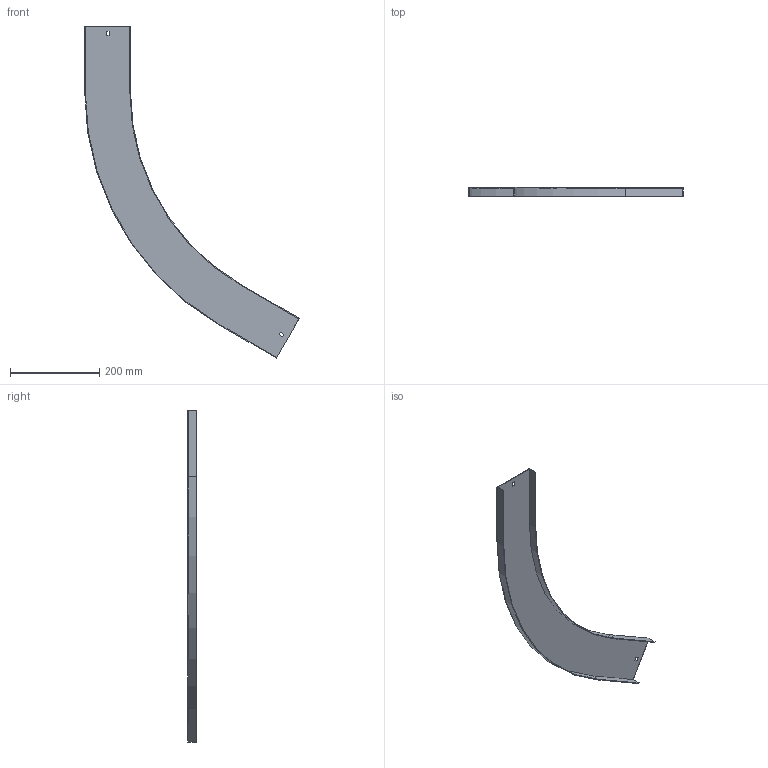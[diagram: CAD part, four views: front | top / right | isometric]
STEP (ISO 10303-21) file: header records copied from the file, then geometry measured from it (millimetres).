
FILE_DESCRIPTION (( 'STEP AP214' ), '1' );
FILE_NAME ('13N5R100.step', '2025-02-21T10:51:29', ( '' ), ( '' ), 'SwSTEP 2.0', 'SolidWorks 2023', '' );
FILE_SCHEMA (( 'AUTOMOTIVE_DESIGN' ));
Length unit declared in the file: millimetre
Products named in the file (1): 13N5R100
Bounding box: 482.15 x 20 x 745.91 mm (x, y, z)
Volume: 183775.8 mm3; surface area: 248175.3 mm2
Topology: 1 solids, 1 shells, 26 faces, 72 edges, 48 vertices
Faces by surface type: plane 22, cylinder 4
Entity records: 855 total; most frequent: CARTESIAN_POINT 147, ORIENTED_EDGE 144, DIRECTION 134, EDGE_CURVE 72, LINE 64, VECTOR 64, VERTEX_POINT 48, AXIS2_PLACEMENT_3D 35
